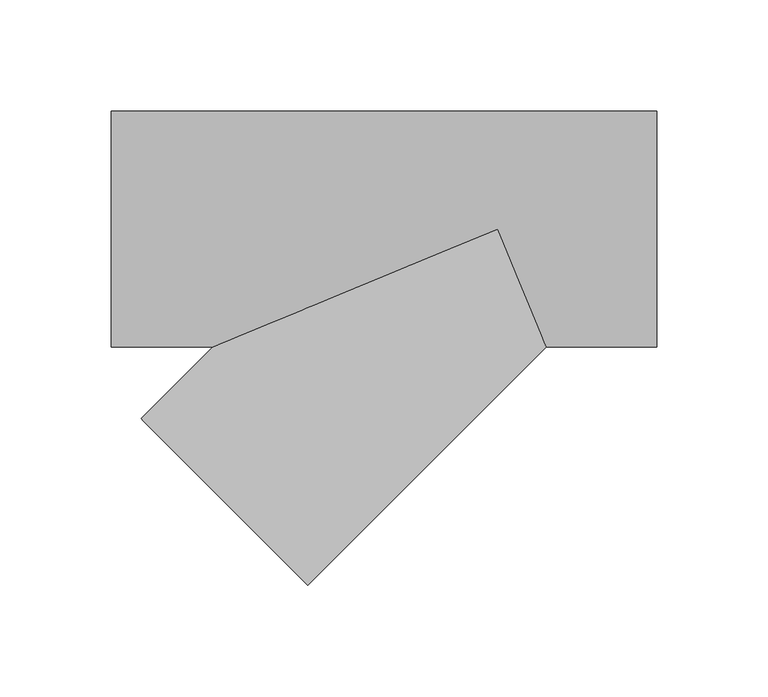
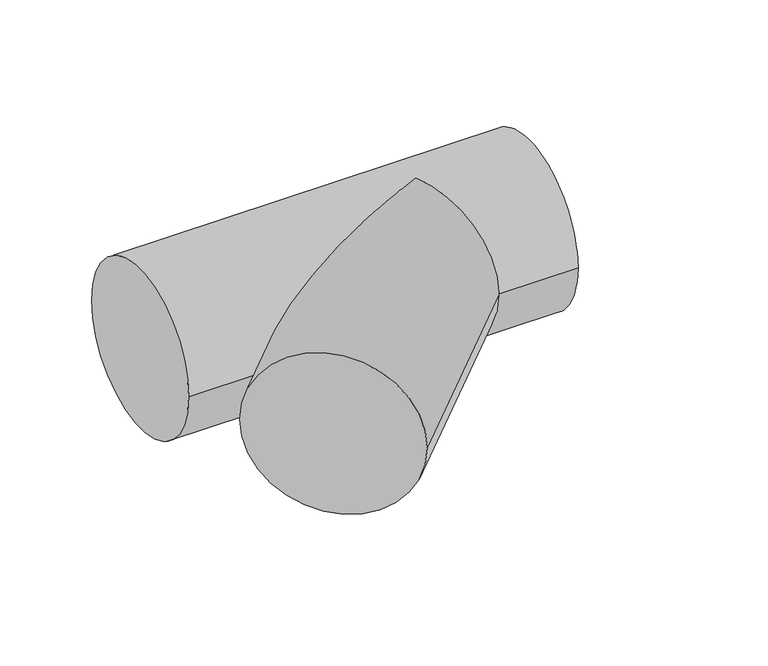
"""IFC4 building model written with IfcOpenShell, lengths in millimetres: pipe fitting geometry, 010513441 : Tes 45º."""

from ifc_helpers import new_model, si_unit, frame, origin, place, context, project, spatial, circle_curve, ellipse_curve, source, transform, mapped, element, save
from ifc_brep_helpers import plane_surface, cylinder_surface, advanced_brep


def pipe_fitting_160d52dd(model_context):
    return source(origin(), model_context, "Body", "AdvancedBrep", [
        advanced_brep(
        [(-173.5, -53.0, 0.0), (-173.5, 53.0, 0.0), (71.5, -53.0, 0.0), (71.5, 53.0, 0.0), (-127.9533188, -53.0, 0.0), (0.0, 0.0, 53.0), (21.9533188, -53.0, 0.0), (0.0, 0.0, -53.0), (-160.1596859, -85.2063671, 0.0), (-85.2063671, -160.1596859, 0.0)],
        [
            (0, 1, circle_curve(frame((-173.5, 0.0, 0.0), z_axis=(-1.0, 0.0, 0.0), x_axis=(0.0, 1.0, 0.0)), 53.0)),
            (1, 0, circle_curve(frame((-173.5, 0.0, 0.0), z_axis=(-1.0, 0.0, 0.0), x_axis=(0.0, 1.0, 0.0)), 53.0)),
            (2, 3, circle_curve(frame((71.5, 0.0, 0.0), z_axis=(1.0, 0.0, 0.0), x_axis=(0.0, 1.0, 0.0)), 53.0)),
            (3, 2, circle_curve(frame((71.5, 0.0, 0.0), z_axis=(1.0, 0.0, 0.0), x_axis=(0.0, 1.0, 0.0)), 53.0)),
            (0, 4),
            (4, 5, ellipse_curve(frame((0.0, 0.0, 0.0), z_axis=(-0.3826834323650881, 0.9238795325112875, 0.0), x_axis=(-0.9238795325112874, -0.38268343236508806, 0.0)), 138.4956743, 53.0)),
            (5, 6, ellipse_curve(frame((0.0, 0.0, 0.0), z_axis=(0.9238795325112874, 0.38268343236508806, 0.0), x_axis=(-0.3826834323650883, 0.9238795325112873, 0.0)), 57.3667866, 53.0)),
            (6, 2),
            (3, 1),
            (6, 7, ellipse_curve(frame((0.0, 0.0, 0.0), z_axis=(0.9238795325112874, 0.38268343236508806, 0.0), x_axis=(-0.3826834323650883, 0.9238795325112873, 0.0)), 57.3667866, 53.0)),
            (7, 4, ellipse_curve(frame((0.0, 0.0, 0.0), z_axis=(-0.3826834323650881, 0.9238795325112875, 0.0), x_axis=(-0.9238795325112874, -0.38268343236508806, 0.0)), 138.4956743, 53.0)),
            (8, 9, circle_curve(frame((-122.6830265, -122.6830265, 0.0), z_axis=(-0.7071067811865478, -0.7071067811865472, 0.0), x_axis=(0.7071067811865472, -0.7071067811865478, 0.0)), 53.0)),
            (9, 8, circle_curve(frame((-122.6830265, -122.6830265, 0.0), z_axis=(-0.7071067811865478, -0.7071067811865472, 0.0), x_axis=(0.7071067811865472, -0.7071067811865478, 0.0)), 53.0)),
            (9, 6),
            (4, 8),
        ],
        [
            plane_surface(frame((-173.5, 0.0, 0.0), z_axis=(-1.0, 0.0, 0.0), x_axis=(0.0, 0.0, 1.0))),
            plane_surface(frame((71.5, 0.0, 0.0), z_axis=(1.0, 0.0, 0.0), x_axis=(0.0, 0.0, 1.0))),
            cylinder_surface(frame((-173.5, 0.0, 0.0), z_axis=(-1.0, 0.0, 0.0), x_axis=(0.0, 1.0, 0.0)), 53.0),
            plane_surface(frame((-122.6830265, -122.6830265, 0.0), z_axis=(-0.7071067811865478, -0.7071067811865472, 0.0), x_axis=(0.0, 0.0, 1.0))),
            cylinder_surface(frame((0.0, 0.0, 0.0), z_axis=(0.7071067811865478, 0.7071067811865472, 0.0), x_axis=(0.7071067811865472, -0.7071067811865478, 0.0)), 53.0),
        ],
        [
            (0, [[1, 2]]),
            (1, [[3, 4]]),
            (2, [[-1, 5, 6, 7, 8, -4, 9]]),
            (2, [[-2, -9, -3, -8, 10, 11, -5]]),
            (3, [[12, 13]]),
            (4, [[-13, 14, -7, -6, 15]]),
            (4, [[-12, -15, -11, -10, -14]]),
        ],
    ),
    ])


if __name__ == "__main__":
    model = new_model("IFC4")
    model_context = context("Model", 3, world=origin())
    ifc_project = project(units=[si_unit("LENGTHUNIT", "METRE", prefix="MILLI")], contexts=[model_context])
    site = spatial("IfcSite", under=ifc_project)
    building = spatial("IfcBuilding", under=site)
    placement = place(None, origin())
    pipe_fitting_shape = pipe_fitting_160d52dd(model_context)
    element("IfcPipeFitting", 1, ObjectType="010513441 : Tes 45º", at=placement, inside=building, context=model_context, shape_type="MappedRepresentation", body=[
        mapped(pipe_fitting_shape, transform((0.0, 0.0, 0.0), x_axis=(1.0, 0.0, 0.0), y_axis=(0.0, 1.0, 0.0), z_axis=(0.0, 0.0, 1.0))),
    ])
    save(model, "model.ifc")
